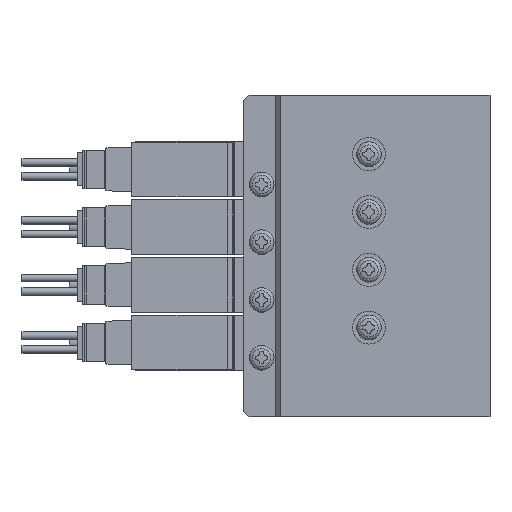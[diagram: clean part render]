
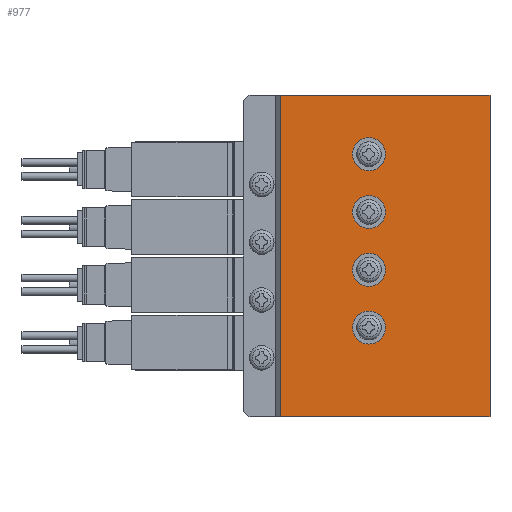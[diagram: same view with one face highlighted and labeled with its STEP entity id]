
A CAD part, left-side view. The second image highlights one B-rep face of the part: STEP entity #977.
In plain terms, the highlighted planar face has unit normal (-1, 0, 0) as drawn and (1, 0, 0) by its records, which use the part's own axes.
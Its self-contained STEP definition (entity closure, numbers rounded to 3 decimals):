
#977=ADVANCED_FACE('',(#2265,#2266,#2267,#2268,#2269),#2270,.F.);
#2265=FACE_OUTER_BOUND('',#3624,.T.);
#2266=FACE_BOUND('',#3625,.T.);
#2267=FACE_BOUND('',#3626,.T.);
#2268=FACE_BOUND('',#3627,.T.);
#2269=FACE_BOUND('',#3628,.T.);
#2270=PLANE('',#3629);
#3624=EDGE_LOOP('',(#7957,#7958,#7959,#7960));
#3625=EDGE_LOOP('',(#7961));
#3626=EDGE_LOOP('',(#7962));
#3627=EDGE_LOOP('',(#7963));
#3628=EDGE_LOOP('',(#7964));
#3629=AXIS2_PLACEMENT_3D('',#7965,#7966,#7967);
#7957=ORIENTED_EDGE('',*,*,#9368,.T.);
#7958=ORIENTED_EDGE('',*,*,#9483,.F.);
#7959=ORIENTED_EDGE('',*,*,#9360,.F.);
#7960=ORIENTED_EDGE('',*,*,#9577,.T.);
#7961=ORIENTED_EDGE('',*,*,#9588,.F.);
#7962=ORIENTED_EDGE('',*,*,#9376,.F.);
#7963=ORIENTED_EDGE('',*,*,#9567,.F.);
#7964=ORIENTED_EDGE('',*,*,#9568,.F.);
#7965=CARTESIAN_POINT('',(19.0,0.0,29.25));
#7966=DIRECTION('',(-1.0,0.0,0.0));
#7967=DIRECTION('',(0.0,0.0,1.0));
#9360=EDGE_CURVE('',#11558,#11560,#11561,.T.);
#9368=EDGE_CURVE('',#11575,#11573,#11576,.T.);
#9376=EDGE_CURVE('',#11589,#11589,#11590,.T.);
#9483=EDGE_CURVE('',#11560,#11573,#11769,.T.);
#9567=EDGE_CURVE('',#11891,#11891,#11892,.T.);
#9568=EDGE_CURVE('',#11893,#11893,#11894,.T.);
#9577=EDGE_CURVE('',#11558,#11575,#11907,.T.);
#9588=EDGE_CURVE('',#11920,#11920,#11921,.T.);
#11558=VERTEX_POINT('',#15436);
#11560=VERTEX_POINT('',#15439);
#11561=LINE('',#15440,#15441);
#11573=VERTEX_POINT('',#15457);
#11575=VERTEX_POINT('',#15460);
#11576=LINE('',#15461,#15462);
#11589=VERTEX_POINT('',#15480);
#11590=CIRCLE('',#15481,3.0);
#11769=LINE('',#15931,#15932);
#11891=VERTEX_POINT('',#16231);
#11892=CIRCLE('',#16232,3.0);
#11893=VERTEX_POINT('',#16233);
#11894=CIRCLE('',#16234,3.0);
#11907=LINE('',#16250,#16251);
#11920=VERTEX_POINT('',#16301);
#11921=CIRCLE('',#16302,3.0);
#15436=CARTESIAN_POINT('',(19.0,0.0,29.25));
#15439=CARTESIAN_POINT('',(19.0,38.0,29.25));
#15440=CARTESIAN_POINT('',(19.0,0.0,29.25));
#15441=VECTOR('',#17946,1.0);
#15457=CARTESIAN_POINT('',(19.0,38.0,-29.25));
#15460=CARTESIAN_POINT('',(19.0,0.0,-29.25));
#15461=CARTESIAN_POINT('',(19.0,0.0,-29.25));
#15462=VECTOR('',#17958,1.0);
#15480=CARTESIAN_POINT('',(19.0,22.0,-21.5));
#15481=AXIS2_PLACEMENT_3D('',#17970,#17971,#17972);
#15931=CARTESIAN_POINT('',(19.0,38.0,29.25));
#15932=VECTOR('',#18148,1.0);
#16231=CARTESIAN_POINT('',(19.0,22.0,-11.0));
#16232=AXIS2_PLACEMENT_3D('',#18284,#18285,#18286);
#16233=CARTESIAN_POINT('',(19.0,22.0,-0.5));
#16234=AXIS2_PLACEMENT_3D('',#18287,#18288,#18289);
#16250=CARTESIAN_POINT('',(19.0,0.0,29.25));
#16251=VECTOR('',#18308,1.0);
#16301=CARTESIAN_POINT('',(19.0,22.0,10.0));
#16302=AXIS2_PLACEMENT_3D('',#18324,#18325,#18326);
#17946=DIRECTION('',(0.0,1.0,0.0));
#17958=DIRECTION('',(0.0,1.0,0.0));
#17970=CARTESIAN_POINT('',(19.0,22.0,-18.5));
#17971=DIRECTION('',(1.0,0.0,0.0));
#17972=DIRECTION('',(0.0,0.0,-1.0));
#18148=DIRECTION('',(0.0,0.0,-1.0));
#18284=CARTESIAN_POINT('',(19.0,22.0,-8.0));
#18285=DIRECTION('',(1.0,0.0,0.0));
#18286=DIRECTION('',(0.0,0.0,-1.0));
#18287=CARTESIAN_POINT('',(19.0,22.0,2.5));
#18288=DIRECTION('',(1.0,0.0,0.0));
#18289=DIRECTION('',(0.0,0.0,-1.0));
#18308=DIRECTION('',(0.0,0.0,-1.0));
#18324=CARTESIAN_POINT('',(19.0,22.0,13.0));
#18325=DIRECTION('',(1.0,0.0,0.0));
#18326=DIRECTION('',(0.0,0.0,-1.0));
